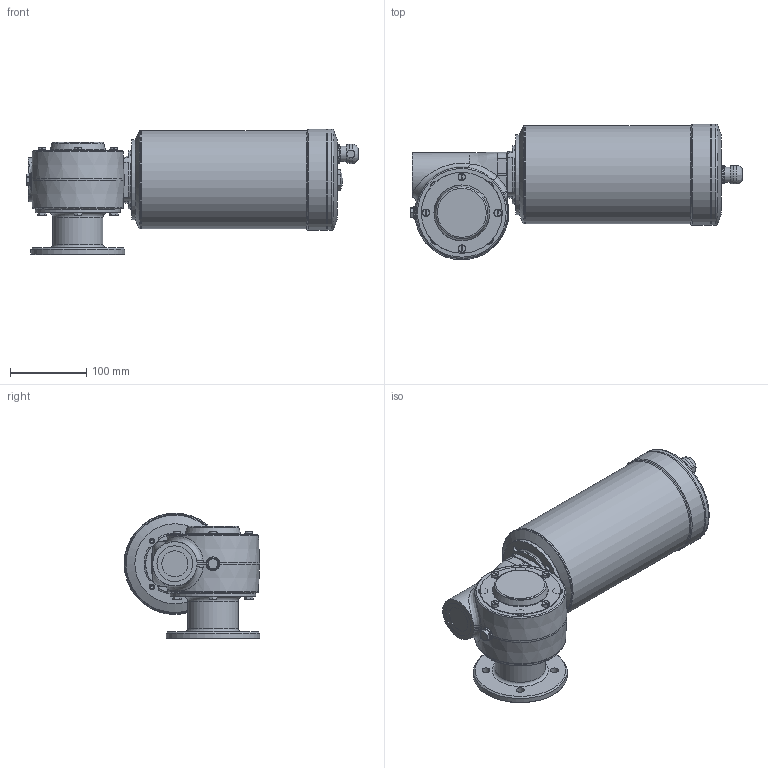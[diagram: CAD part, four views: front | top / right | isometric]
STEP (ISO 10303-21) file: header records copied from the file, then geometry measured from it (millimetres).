
FILE_DESCRIPTION( ( 'Unknown' ), '1' );
FILE_NAME( 'E:/services/configuratordownloads/customers/CLEANGEARTECH/VFN/download/9A108E726D58C1F3E34EAF7B20B9F0F7/STEP/9A108E726D58C1F3E34EAF7B20B9F0F7.3d.stp', 'Unknown', ( 'Unknown' ), ( 'Unknown' ), 'PSStep 10.1', 'Unknown', ' ' );
FILE_SCHEMA( ( 'AUTOMOTIVE_DESIGN { 1 0 10303 214 1 1 1 1 }' ) );
Length unit declared in the file: millimetre
Products named in the file (1): N508800
Bounding box: 435.5 x 178 x 165 mm (x, y, z)
Volume: 4739804.9 mm3; surface area: 278133.4 mm2
Topology: 1 solids, 24 shells, 600 faces, 1387 edges, 888 vertices
Faces by surface type: plane 238, cylinder 141, cone 134, torus 55, bspline 31, sphere 1
Full cylindrical faces by diameter (mm): 4.134 x1, 4.917 x30, 6 x8, 6.5 x4, 7 x9, 8.9 x4, 10 x4, 10.5 x4, 11 x4, 13.4 x1, 14 x1, 16.662 x1, 17 x1, 18 x1, 20 x1, 30 x1, 34 x1, 40 x1, 42.5 x2, 47 x1, 52 x1, 55 x1, 56 x1, 66 x1, 68 x2, 70 x3, 105 x1, 106 x1, 112 x1, 123 x1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
Entity records: 23595 total; most frequent: CARTESIAN_POINT 7053, DIRECTION 2433, ORIENTED_EDGE 2080, AXIS2_PLACEMENT_3D 1090, EDGE_CURVE 1040, EDGE_LOOP 900, VERTEX_POINT 781, FACE_OUTER_BOUND 735
